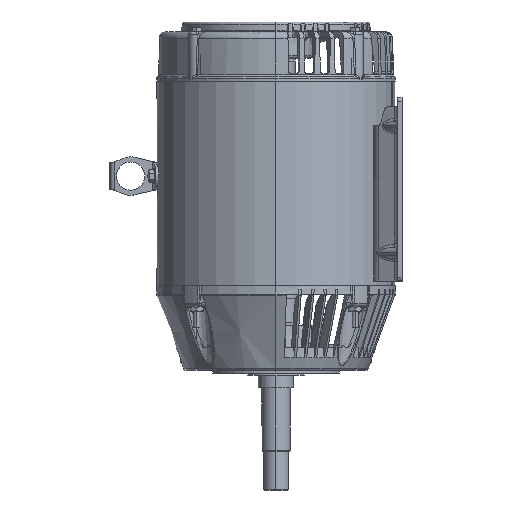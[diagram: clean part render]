
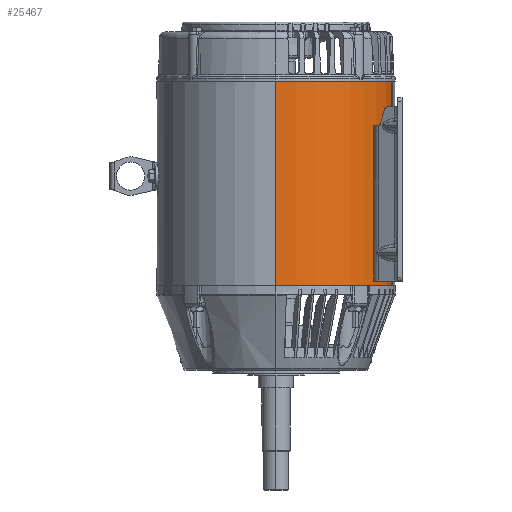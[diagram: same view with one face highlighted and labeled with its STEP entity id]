
A CAD part, left-side view. The second image highlights one B-rep face of the part: STEP entity #25467.
In plain terms, the highlighted cylindrical face has radius 107.22 mm (diameter 214.44 mm), a partial arc.
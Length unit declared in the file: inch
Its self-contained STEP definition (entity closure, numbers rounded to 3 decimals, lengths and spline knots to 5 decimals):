
#430 = LINE ( 'NONE', #16219, #108323 ) ;
#1776 = DIRECTION ( 'NONE',  ( 0., 1., 0. ) ) ;
#1923 = DIRECTION ( 'NONE',  ( 0., 0., 1. ) ) ;
#2063 = CARTESIAN_POINT ( 'NONE',  ( 0., 0., -7.289 ) ) ;
#2968 = DIRECTION ( 'NONE',  ( -1., 0., 0. ) ) ;
#3815 = EDGE_CURVE ( 'NONE', #23154, #49855, #13430, .T. ) ;
#10997 = EDGE_CURVE ( 'NONE', #77954, #108754, #128932, .T. ) ;
#13430 = CIRCLE ( 'NONE', #101320, 4.22125 ) ;
#16219 = CARTESIAN_POINT ( 'NONE',  ( -4.22125, 0., 27.16415 ) ) ;
#23154 = VERTEX_POINT ( 'NONE', #64812 ) ;
#25467 = ADVANCED_FACE ( 'NONE', ( #30700 ), #81263, .T. ) ;
#30700 = FACE_OUTER_BOUND ( 'NONE', #111477, .T. ) ;
#31899 = CARTESIAN_POINT ( 'NONE',  ( -0.97472, -4.10717, -0.039 ) ) ;
#43709 = AXIS2_PLACEMENT_3D ( 'NONE', #123028, #122999, #122677 ) ;
#46940 = VECTOR ( 'NONE', #129904, 39.37008 ) ;
#49855 = VERTEX_POINT ( 'NONE', #93615 ) ;
#54200 = CARTESIAN_POINT ( 'NONE',  ( -0.97472, -4.10717, 27.16415 ) ) ;
#64812 = CARTESIAN_POINT ( 'NONE',  ( -4.22125, 0., -7.289 ) ) ;
#67309 = DIRECTION ( 'NONE',  ( 0., 0., -1. ) ) ;
#71299 = EDGE_CURVE ( 'NONE', #49855, #77954, #75676, .T. ) ;
#75676 = LINE ( 'NONE', #54200, #46940 ) ;
#77954 = VERTEX_POINT ( 'NONE', #31899 ) ;
#78171 = CARTESIAN_POINT ( 'NONE',  ( 0., 0., 27.16415 ) ) ;
#81263 = CYLINDRICAL_SURFACE ( 'NONE', #125856, 4.22125 ) ;
#83402 = ORIENTED_EDGE ( 'NONE', *, *, #10997, .T. ) ;
#88236 = ORIENTED_EDGE ( 'NONE', *, *, #71299, .T. ) ;
#93615 = CARTESIAN_POINT ( 'NONE',  ( -0.97472, -4.10717, -7.289 ) ) ;
#100686 = CARTESIAN_POINT ( 'NONE',  ( -4.22125, 0., -0.039 ) ) ;
#101320 = AXIS2_PLACEMENT_3D ( 'NONE', #2063, #1923, #1776 ) ;
#108323 = VECTOR ( 'NONE', #134702, 39.37008 ) ;
#108754 = VERTEX_POINT ( 'NONE', #100686 ) ;
#110311 = ORIENTED_EDGE ( 'NONE', *, *, #133922, .T. ) ;
#111477 = EDGE_LOOP ( 'NONE', ( #83402, #110311, #125506, #88236 ) ) ;
#122677 = DIRECTION ( 'NONE',  ( 1., 0., 0. ) ) ;
#122999 = DIRECTION ( 'NONE',  ( 0., 0., -1. ) ) ;
#123028 = CARTESIAN_POINT ( 'NONE',  ( 0., 0., -0.039 ) ) ;
#125506 = ORIENTED_EDGE ( 'NONE', *, *, #3815, .T. ) ;
#125856 = AXIS2_PLACEMENT_3D ( 'NONE', #78171, #67309, #2968 ) ;
#128932 = CIRCLE ( 'NONE', #43709, 4.22125 ) ;
#129904 = DIRECTION ( 'NONE',  ( 0., 0., 1. ) ) ;
#133922 = EDGE_CURVE ( 'NONE', #108754, #23154, #430, .T. ) ;
#134702 = DIRECTION ( 'NONE',  ( 0., 0., -1. ) ) ;
